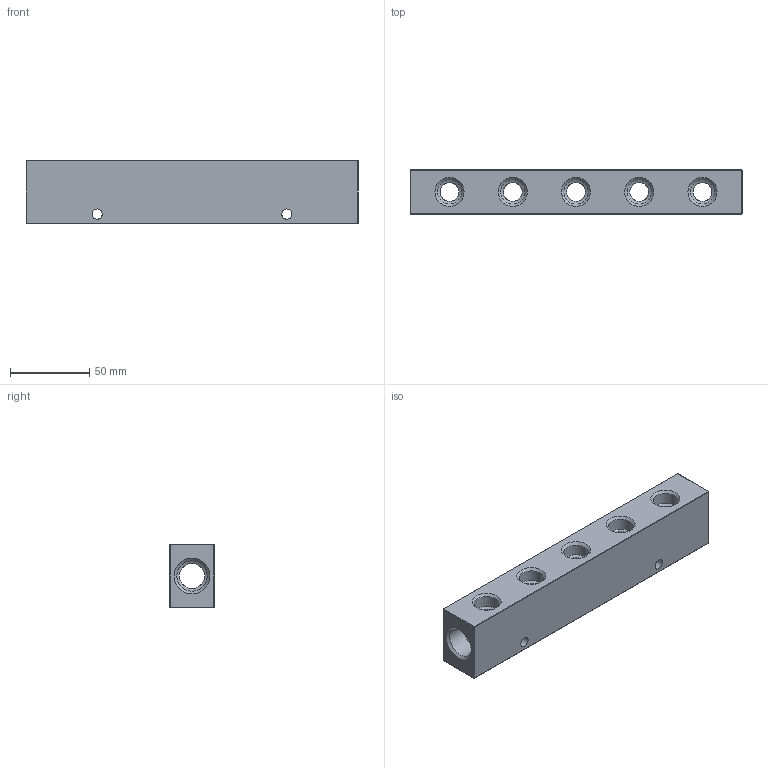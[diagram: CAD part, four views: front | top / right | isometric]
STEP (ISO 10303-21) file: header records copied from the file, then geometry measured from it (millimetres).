
FILE_DESCRIPTION(/* description */ (''),/* implementation_level */ '2;1');
FILE_NAME(/* name */ 'S:\_Tecnico\ArchivioUT\_Disegni3D ingombri\DISEGNI 3D per ingombri\RL\RL52123855.stp',/* time_stamp */ '2020-02-20T14:43:51+01:00',/* author */ ('UfficioTecnico'),/* organization */ (''),/* preprocessor_version */ 'ST-DEVELOPER v18',/* originating_system */ 'Autodesk Inventor 2020',/* authorisation */ '');
FILE_SCHEMA (('AUTOMOTIVE_DESIGN { 1 0 10303 214 3 1 1 }'));
Length unit declared in the file: millimetre
Products named in the file (1): RL51123805
Bounding box: 210 x 28 x 40 mm (x, y, z)
Volume: 166591.5 mm3; surface area: 44877.1 mm2
Topology: 1 solids, 1 shells, 75 faces, 193 edges, 120 vertices
Faces by surface type: cylinder 37, cone 24, sphere 8, plane 6
Full cylindrical faces by diameter (mm): 6.5 x2, 12 x10, 15.395 x10, 16 x1, 19.172 x2
Entity records: 2772 total; most frequent: CARTESIAN_POINT 809, DIRECTION 425, ORIENTED_EDGE 386, EDGE_CURVE 193, AXIS2_PLACEMENT_3D 176, VERTEX_POINT 120, EDGE_LOOP 101, CIRCLE 100
